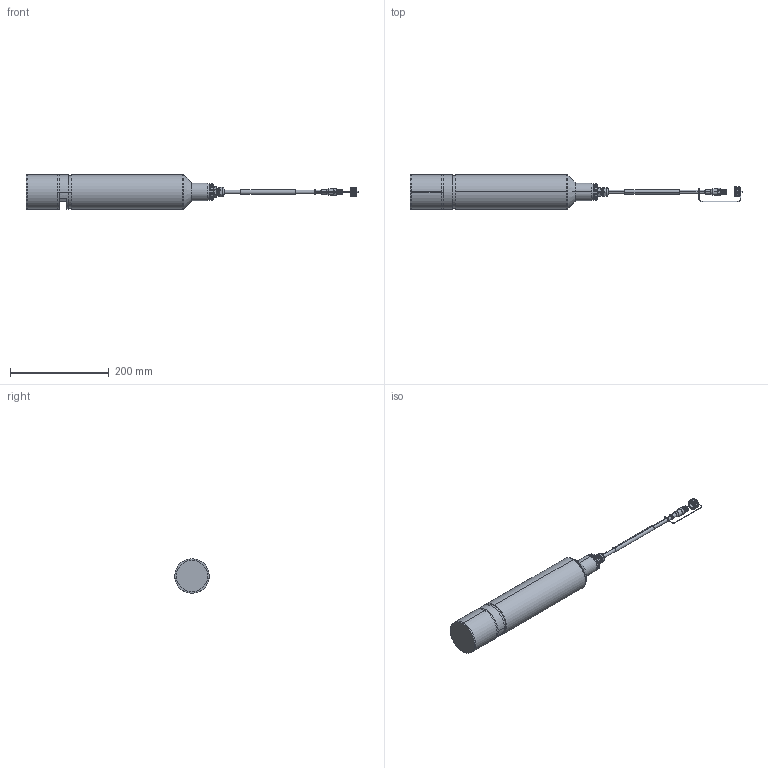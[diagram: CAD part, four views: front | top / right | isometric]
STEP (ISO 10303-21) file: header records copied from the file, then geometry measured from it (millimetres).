
FILE_DESCRIPTION (( 'STEP AP203' ), '1' );
FILE_NAME ('LXV417.TD.XXXXX_001.STEP', '2014-05-12T06:21:52', ( 'helpdesk' ), ( 'Hach-Lange' ), 'SwSTEP 2.0', 'SolidWorks 2012', '' );
FILE_SCHEMA (( 'CONFIG_CONTROL_DESIGN' ));
Length unit declared in the file: millimetre
Products named in the file (21): LXV417.TD.XXXXX_001; Modulkopf_5mm.TD; ZCA791L2_Sondenkabel, Vollständig; XLU081_Schrumpfschlauch Typ PLG, 9,5 x 0,6 transparent_110mm; XMG940_Rastgabel, Schwarz; XMG812_Buchsengehäuse MODU IV, 6-polig 2-reihig Raster 2,54 mm; XMG872_Schutzkappe; XMG872#3_Schutzkappe; XMG872#2_Schutzkappe; XMG872#1_Schutzkappe; YYL111_Kabelverschraubung; XLT717_neu_Kabelverschraubung M16x1.5V4A; XLT717_neu_#2_Kabelverschraubung M16x1.5V4A; XLT717_neu_#4_Kabelverschraubung M16x1.5V4A; XLT717_neu_#3_Kabelverschraubung M16x1.5V4A; XLT717_neu_#1_Kabelverschraubung M16x1.5V4A; ZCA789_Sondenkabel, Universell; HAD082_Sondendeckel; Geh鋟seh黮se.TD; Modulkopf_2mm.TD; Sondenhülse.TD
Assembly tree (21 placements, depth 5):
  LXV417.TD.XXXXX_001
    Sondenhülse.TD
    Modulkopf_2mm.TD
    Geh鋟seh黮se.TD  x2
    HAD082_Sondendeckel
    ZCA791L2_Sondenkabel, Vollständig
      ZCA789_Sondenkabel, Universell
      YYL111_Kabelverschraubung
        XLT717_neu_Kabelverschraubung M16x1.5V4A
          XLT717_neu_#1_Kabelverschraubung M16x1.5V4A
          XLT717_neu_#3_Kabelverschraubung M16x1.5V4A
          XLT717_neu_#4_Kabelverschraubung M16x1.5V4A
          XLT717_neu_#2_Kabelverschraubung M16x1.5V4A
      XMG872_Schutzkappe
        XMG872#1_Schutzkappe
        XMG872#2_Schutzkappe
        XMG872#3_Schutzkappe
      XMG812_Buchsengehäuse MODU IV, 6-polig 2-reihig Raster 2,54 mm
      XMG940_Rastgabel, Schwarz
      XLU081_Schrumpfschlauch Typ PLG, 9,5 x 0,6 transparent_110mm
    Modulkopf_5mm.TD
Bounding box: 670.95 x 69.5 x 69.5 mm (x, y, z)
Volume: 501464.4 mm3; surface area: 241908 mm2
Topology: 23 solids, 23 shells, 951 faces, 2454 edges, 1592 vertices
Faces by surface type: plane 513, cylinder 287, bspline 66, cone 63, torus 22
Entity records: 34818 total; most frequent: CARTESIAN_POINT 9643, ORIENTED_EDGE 4876, DIRECTION 4743, EDGE_CURVE 2438, AXIS2_PLACEMENT_3D 1777, VERTEX_POINT 1584, VECTOR 1189, LINE 1189
